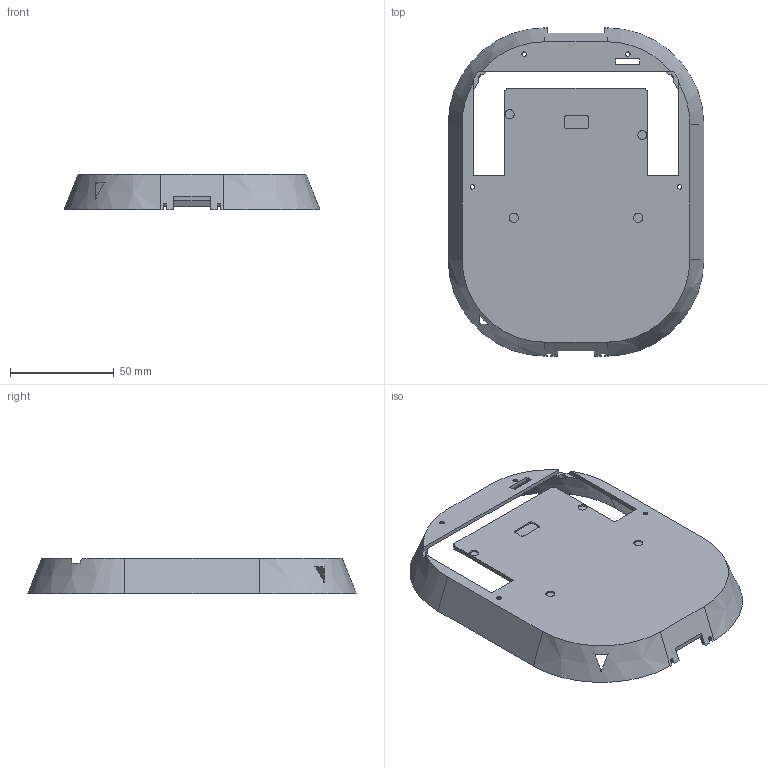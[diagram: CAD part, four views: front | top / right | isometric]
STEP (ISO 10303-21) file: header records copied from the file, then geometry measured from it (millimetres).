
FILE_DESCRIPTION(('FreeCAD Model'),'2;1');
FILE_NAME('Open CASCADE Shape Model','2026-11-13T18:42:18',('FreeCAD'),( 'FreeCAD'),'Open CASCADE STEP processor 7.8','FreeCAD','Unknown');
FILE_SCHEMA(('AUTOMOTIVE_DESIGN { 1 0 10303 214 1 1 1 1 }'));
Length unit declared in the file: millimetre
Products named in the file (1): Open CASCADE STEP translator 7.8 4
Bounding box: 123.4 x 158.4 x 16.9 mm (x, y, z)
Volume: 41594.3 mm3; surface area: 41950 mm2
Topology: 1 solids, 1 shells, 108 faces, 291 edges, 194 vertices
Faces by surface type: plane 67, cylinder 29, cone 12
Full cylindrical faces by diameter (mm): 1 x2, 2.2 x4, 4.3 x4, 4.4 x4, 5.2 x2
Entity records: 3751 total; most frequent: CARTESIAN_POINT 953, DIRECTION 583, ORIENTED_EDGE 582, EDGE_CURVE 291, AXIS2_PLACEMENT_3D 218, VERTEX_POINT 194, LINE 147, VECTOR 147
